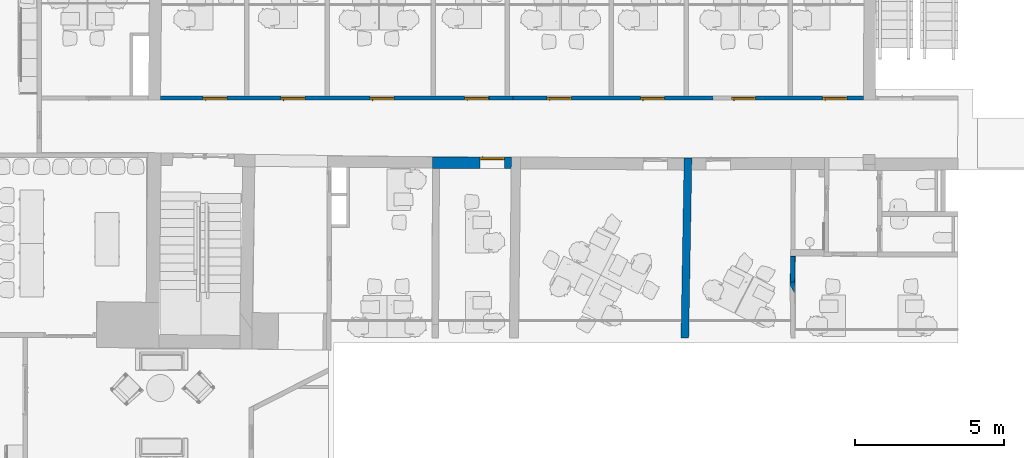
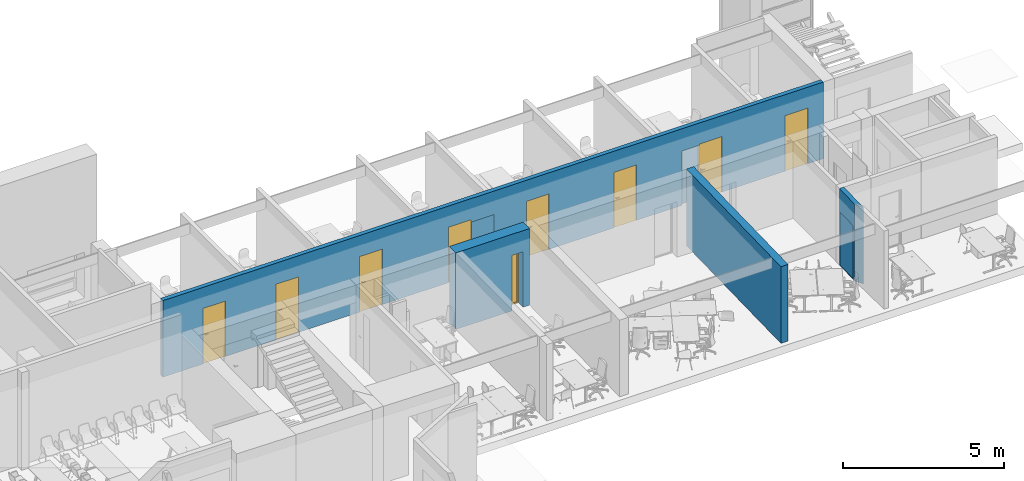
# One storey, part 4 of 19: 9 doors, 6 walls, 12 openings.
"""IFC2X3 building model written with IfcOpenShell, lengths in millimetres."""

import ifcopenshell
import ifcopenshell.guid

model = None  # the IFC model being written
_history = None  # IfcOwnerHistory: only IFC2X3 demands one
_inside = {}  # id of a spatial element -> (the spatial element, [elements in it])
_under = {}  # id of a project, library or spatial element -> (it, [spatial elements below it])
_declared = {}  # id of a project -> (the project, [libraries it declares])
_typed = {}  # id of a type object -> (the type object, [elements of that type])
_made_of = {}  # id of a material, layer set ... -> (it, [elements and type objects made of it])


def new_model(schema):
    """Start an empty IFC model of exactly this schema.

    Asked for "IFC4X3", IfcOpenShell would pick the latest addendum, in which some entities
    have other attributes; the version numbers below select the first issue.
    IFC2X3 requires an IfcOwnerHistory on every rooted entity: one is made here for all.
    """
    global model, _history
    if schema == "IFC4X3":
        model = ifcopenshell.file(schema_version=(4, 3, 0, 0))
    else:
        model = ifcopenshell.file(schema=schema)
    _inside.clear()
    _under.clear()
    _declared.clear()
    _typed.clear()
    _made_of.clear()
    _history = None
    if model.schema == "IFC2X3":
        org = make("IfcOrganization", Name="unknown")
        user = make(
            "IfcPersonAndOrganization",
            ThePerson=make("IfcPerson", FamilyName="unknown"),
            TheOrganization=org,
        )
        app = make(
            "IfcApplication",
            ApplicationDeveloper=org,
            Version="unknown",
            ApplicationFullName="unknown",
            ApplicationIdentifier="unknown",
        )
        _history = make(
            "IfcOwnerHistory",
            OwningUser=user,
            OwningApplication=app,
            ChangeAction="ADDED",
            CreationDate=0,
        )
    return model


def make(cls, **values):
    """One entity of the class cls with the attributes given. An attribute that is None is left unset."""
    return model.create_entity(
        cls, **{name: value for name, value in values.items() if value is not None}
    )


def entity(cls, *values):
    """Any entity or typed value of the class cls, its attributes in the order of the schema. None: left unset."""
    e = model.create_entity(cls)
    for i, value in enumerate(values):
        if value is not None:
            e[i] = value
    return e


def rooted(cls, **values):
    """An entity with a GlobalId (a new one), such as an element, a storey or a relation."""
    return make(cls, GlobalId=ifcopenshell.guid.new(), OwnerHistory=_history, **values)


def si_unit(unit_type, name, prefix=None):
    """IfcSIUnit, for example si_unit("LENGTHUNIT", "METRE", prefix="MILLI")."""
    return make("IfcSIUnit", UnitType=unit_type, Prefix=prefix, Name=name)


def converted_unit(unit_type, name, factor, base, dimensions=None, offset=None):
    """IfcConversionBasedUnit, such as the inch: factor (a typed value) times the base unit."""
    return make(
        "IfcConversionBasedUnit"
        if offset is None
        else "IfcConversionBasedUnitWithOffset",
        ConversionOffset=offset,
        Dimensions=None
        if dimensions is None
        else entity("IfcDimensionalExponents", *dimensions),
        UnitType=unit_type,
        Name=name,
        ConversionFactor=make(
            "IfcMeasureWithUnit", ValueComponent=factor, UnitComponent=base
        ),
    )


def derived_unit(unit_type, elements):
    """IfcDerivedUnit: a product of units, each with its exponent."""
    return make(
        "IfcDerivedUnit",
        Elements=[
            make("IfcDerivedUnitElement", Unit=unit, Exponent=power)
            for unit, power in elements
        ],
        UnitType=unit_type,
    )


def assignment(units):
    """IfcUnitAssignment: the units of a project."""
    return None if units is None else make("IfcUnitAssignment", Units=units)


def point(xyz):
    """IfcCartesianPoint."""
    return None if xyz is None else make("IfcCartesianPoint", Coordinates=xyz)


def direction(xyz):
    """IfcDirection."""
    return None if xyz is None else make("IfcDirection", DirectionRatios=xyz)


def frame(location, z_axis=None, x_axis=None):
    """IfcAxis2Placement3D, a coordinate frame: its origin and axes. An axis left out is left unset."""
    return make(
        "IfcAxis2Placement3D",
        Location=point(location),
        Axis=direction(z_axis),
        RefDirection=direction(x_axis),
    )


def frame_2d(location, x_axis=None):
    """IfcAxis2Placement2D, a coordinate frame in the plane: its origin and x axis."""
    return make(
        "IfcAxis2Placement2D", Location=point(location), RefDirection=direction(x_axis)
    )


def origin():
    """The frame at (0, 0, 0) with its axes left unset."""
    return frame((0.0, 0.0, 0.0))


def place(relative_to, where):
    """IfcLocalPlacement: puts the frame where relative to a parent placement (None: the world)."""
    return make(
        "IfcLocalPlacement", PlacementRelTo=relative_to, RelativePlacement=where
    )


def context(
    kind, dimensions, precision=None, world=None, true_north=None, identifier=None
):
    """IfcGeometricRepresentationContext, for example the 3D "Model" context."""
    return make(
        "IfcGeometricRepresentationContext",
        ContextIdentifier=identifier,
        ContextType=kind,
        CoordinateSpaceDimension=dimensions,
        Precision=precision,
        WorldCoordinateSystem=world,
        TrueNorth=true_north,
    )


def subcontext(parent, identifier, kind, view, scale=None):
    """IfcGeometricRepresentationSubContext, for example "Body" below "Model"."""
    return make(
        "IfcGeometricRepresentationSubContext",
        ContextIdentifier=identifier,
        ContextType=kind,
        ParentContext=parent,
        TargetScale=scale,
        TargetView=view,
    )


def project(units=None, contexts=None):
    """IfcProject with its units and contexts."""
    return rooted(
        "IfcProject",
        Name="project",
        RepresentationContexts=contexts,
        UnitsInContext=assignment(units),
    )


def spatial(cls, under=None, at=None, **own):
    """A site, building, storey or space (cls), placed at a placement, below another one or the project."""
    s = rooted(cls, ObjectPlacement=at, **own)
    if under is not None:
        _under.setdefault(under.id(), (under, []))[1].append(s)
    return s


def polyline(points):
    """IfcPolyline through the points."""
    return make("IfcPolyline", Points=[point(p) for p in points])


def profile(cls, at=None, kind="AREA", **sizes):
    """A parametric profile (cls). Its sizes go by their IFC names, for example OverallWidth=200.0."""
    return make(cls, ProfileType=kind, Position=at, **sizes)


def rectangle(**sizes):
    """IfcRectangleProfileDef."""
    return profile("IfcRectangleProfileDef", **sizes)


def outline(outer, holes=None, kind="AREA"):
    """IfcArbitraryClosedProfileDef: a profile drawn as a closed curve; with holes, ...WithVoids."""
    if holes is None:
        return make("IfcArbitraryClosedProfileDef", ProfileType=kind, OuterCurve=outer)
    return make(
        "IfcArbitraryProfileDefWithVoids",
        ProfileType=kind,
        OuterCurve=outer,
        InnerCurves=holes,
    )


def extrude(swept, where, along, depth):
    """IfcExtrudedAreaSolid: the profile swept, set in the frame where, extruded along a direction by depth."""
    return make(
        "IfcExtrudedAreaSolid",
        SweptArea=swept,
        Position=where,
        ExtrudedDirection=direction(along),
        Depth=depth,
    )


def clip(a, b, op="DIFFERENCE"):
    """IfcBooleanClippingResult: the solid a cut by the half space b."""
    return make(
        "IfcBooleanClippingResult", Operator=op, FirstOperand=a, SecondOperand=b
    )


def bounded_halfspace(plane, agree, where, boundary):
    """IfcPolygonalBoundedHalfSpace: a half space limited to a polygon's prism."""
    return make(
        "IfcPolygonalBoundedHalfSpace",
        BaseSurface=make("IfcPlane", Position=plane),
        AgreementFlag=agree,
        Position=where,
        PolygonalBoundary=boundary,
    )


def faces_of(points, faces, orient=None, outer=None):
    """IfcFace entities. A face is a list of loops; a loop is a list of indices into points, from 0.

    orient and outer hold one flag for each loop. By default every Orientation is true, the
    first loop of a face is its IfcFaceOuterBound and the others are IfcFaceBound.
    """
    made = []
    for i, loops in enumerate(faces):
        bounds = []
        for j, loop in enumerate(loops):
            is_outer = j == 0 if outer is None else outer[i][j]
            bounds.append(
                make(
                    "IfcFaceOuterBound" if is_outer else "IfcFaceBound",
                    Bound=make("IfcPolyLoop", Polygon=[points[k] for k in loop]),
                    Orientation=True if orient is None else orient[i][j],
                )
            )
        made.append(make("IfcFace", Bounds=bounds))
    return made


def faceted_brep(points, faces, orient=None, outer=None, voids=None):
    """IfcFacetedBrep: a solid bounded by flat faces; with voids (closed shells), ...WithVoids."""
    shared = [point(p) for p in points]
    hull = make("IfcClosedShell", CfsFaces=faces_of(shared, faces, orient, outer))
    if voids is None:
        return make("IfcFacetedBrep", Outer=hull)
    return make(
        "IfcFacetedBrepWithVoids",
        Outer=hull,
        Voids=[
            make(cls, CfsFaces=faces_of(shared, fs, o, b)) for cls, fs, o, b in voids
        ],
    )


def shape(context_of_items, identifier, shape_type, items):
    """IfcShapeRepresentation: the items that make up one representation, for example the "Body"."""
    return make(
        "IfcShapeRepresentation",
        ContextOfItems=context_of_items,
        RepresentationIdentifier=identifier,
        RepresentationType=shape_type,
        Items=items,
    )


def source(mapping_origin, context_of_items, identifier, shape_type, items):
    """IfcRepresentationMap: a shape defined once, which mapped items show again and again."""
    return make(
        "IfcRepresentationMap",
        MappingOrigin=mapping_origin,
        MappedRepresentation=shape(context_of_items, identifier, shape_type, items),
    )


def transform(
    local_origin,
    x_axis=None,
    y_axis=None,
    z_axis=None,
    scale=None,
    scale2=None,
    scale3=None,
    uniform=True,
):
    """IfcCartesianTransformationOperator3D, or its non-uniform kind. x_axis, y_axis, z_axis: its Axis1, 2, 3."""
    if uniform:
        return make(
            "IfcCartesianTransformationOperator3D",
            Axis1=direction(x_axis),
            Axis2=direction(y_axis),
            LocalOrigin=point(local_origin),
            Scale=scale,
            Axis3=direction(z_axis),
        )
    return make(
        "IfcCartesianTransformationOperator3DnonUniform",
        Axis1=direction(x_axis),
        Axis2=direction(y_axis),
        LocalOrigin=point(local_origin),
        Scale=scale,
        Axis3=direction(z_axis),
        Scale2=scale2,
        Scale3=scale3,
    )


def mapped(mapping_source, mapping_target):
    """IfcMappedItem: shows the shape of a source again, moved by a transform."""
    return make(
        "IfcMappedItem", MappingSource=mapping_source, MappingTarget=mapping_target
    )


def material(Name=None, Category=None):
    """IfcMaterial."""
    return make("IfcMaterial", Name=Name, Category=Category)


def material_list(materials):
    """IfcMaterialList."""
    return make("IfcMaterialList", Materials=materials)


def layer(
    of_material, thickness, ventilated=None, Name=None, Category=None, Priority=None
):
    """IfcMaterialLayer: one layer of a wall or slab, of a material (None: an air gap)."""
    return make(
        "IfcMaterialLayer",
        Material=of_material,
        LayerThickness=thickness,
        IsVentilated=ventilated,
        Name=Name,
        Category=Category,
        Priority=Priority,
    )


def layer_set(layers, Name=None):
    """IfcMaterialLayerSet."""
    return make("IfcMaterialLayerSet", MaterialLayers=layers, LayerSetName=Name)


def layer_usage(for_layer_set, set_direction, sense, offset, extent=None):
    """IfcMaterialLayerSetUsage: how a layer set lies in its element."""
    return make(
        "IfcMaterialLayerSetUsage",
        ForLayerSet=for_layer_set,
        LayerSetDirection=set_direction,
        DirectionSense=sense,
        OffsetFromReferenceLine=offset,
        ReferenceExtent=extent,
    )


def made_of(thing, what):
    """Note that an element or type object is made of a material, layer set ...; save() writes the relation."""
    if what is not None:
        _made_of.setdefault(what.id(), (what, []))[1].append(thing)
    return thing


def type_object(cls, material=None, **own):
    """A type object (cls), such as IfcWallType, which elements share."""
    return made_of(rooted(cls, **own), material)


def type_shapes(of_type, sources):
    """Give a type object the sources (RepresentationMaps) that its elements show as mapped items."""
    of_type.RepresentationMaps = sources


def element(
    cls,
    number,
    at=None,
    inside=None,
    cuts=None,
    type_object=None,
    material=None,
    context=None,
    identifier="Body",
    shape_type=None,
    held_by="IfcProductDefinitionShape",
    body=None,
    shapes=None,
    **own,
):
    """One element of the class cls, such as IfcWall. Its Tag is "e" and its number.

    at: its placement. inside: the storey or other place that contains it. cuts: it is an
    opening in that element (IfcRelVoidsElement). A single representation is given by context,
    identifier, shape_type and body (its items); several are given by shapes. held_by: the class
    of the entity that holds the representations. save() writes the other relations.
    """
    e = rooted(cls, Tag="e%d" % number, ObjectPlacement=at, **own)
    if body is not None:
        shapes = [shape(context, identifier, shape_type, body)]
    if shapes is not None:
        e.Representation = make(held_by, Representations=shapes)
    if inside is not None:
        _inside.setdefault(inside.id(), (inside, []))[1].append(e)
    if cuts is not None:
        rooted(
            "IfcRelVoidsElement", RelatingBuildingElement=cuts, RelatedOpeningElement=e
        )
    if type_object is not None:
        _typed.setdefault(type_object.id(), (type_object, []))[1].append(e)
    return made_of(e, material)


def fill(opening, filler):
    """IfcRelFillsElement: the door or window that sits in an opening."""
    return rooted(
        "IfcRelFillsElement",
        RelatingOpeningElement=opening,
        RelatedBuildingElement=filler,
    )


def aggregate(whole, parts):
    """IfcRelAggregates: a whole, such as a stair, and the parts it consists of."""
    return rooted("IfcRelAggregates", RelatingObject=whole, RelatedObjects=parts)


def save(model, path):
    """Write the relations noted so far, then the file.

    IfcRelAggregates (storeys below a building ...), IfcRelContainedInSpatialStructure (elements
    in a storey), IfcRelDefinesByType, IfcRelAssociatesMaterial and IfcRelDeclares: one each for
    every whole, place, type object, material and project.
    """
    for whole, parts in _under.values():
        aggregate(whole, parts)
    for where, things in _inside.values():
        rooted(
            "IfcRelContainedInSpatialStructure",
            RelatedElements=things,
            RelatingStructure=where,
        )
    for kind, things in _typed.values():
        rooted("IfcRelDefinesByType", RelatedObjects=things, RelatingType=kind)
    for what, things in _made_of.values():
        rooted("IfcRelAssociatesMaterial", RelatedObjects=things, RelatingMaterial=what)
    for by, libraries in _declared.values():
        rooted("IfcRelDeclares", RelatingContext=by, RelatedDefinitions=libraries)
    model.write(path)


model = new_model("IFC2X3")

# Units and contexts
model_context = context("Model", 3, precision=0.01, world=origin(), true_north=direction((6.12303176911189e-17, 1.0)))
context_of_model = context(None, 3, precision=0.01, world=origin(), true_north=direction((6.12303176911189e-17, 1.0)))
body_context = subcontext(model_context, "Body", "Model", "MODEL_VIEW")
ifc_project = project(units=[si_unit("LENGTHUNIT", "METRE", prefix="MILLI"), si_unit("AREAUNIT", "SQUARE_METRE"), si_unit("VOLUMEUNIT", "CUBIC_METRE"), converted_unit("PLANEANGLEUNIT", "DEGREE", entity("IfcRatioMeasure", 0.0174532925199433), si_unit("PLANEANGLEUNIT", "RADIAN"), dimensions=[0, 0, 0, 0, 0, 0, 0]), si_unit("MASSUNIT", "GRAM", prefix="KILO"), derived_unit("MASSDENSITYUNIT", [(si_unit("MASSUNIT", "GRAM", prefix="KILO"), 1), (si_unit("LENGTHUNIT", "METRE"), -3)]), si_unit("TIMEUNIT", "SECOND"), si_unit("FREQUENCYUNIT", "HERTZ"), si_unit("THERMODYNAMICTEMPERATUREUNIT", "DEGREE_CELSIUS"), derived_unit("THERMALTRANSMITTANCEUNIT", [(si_unit("MASSUNIT", "GRAM", prefix="KILO"), 1), (si_unit("THERMODYNAMICTEMPERATUREUNIT", "KELVIN"), -1), (si_unit("TIMEUNIT", "SECOND"), -3)]), derived_unit("VOLUMETRICFLOWRATEUNIT", [(si_unit("LENGTHUNIT", "METRE"), 3), (si_unit("TIMEUNIT", "SECOND"), -1)]), si_unit("ELECTRICCURRENTUNIT", "AMPERE"), si_unit("ELECTRICVOLTAGEUNIT", "VOLT"), si_unit("POWERUNIT", "WATT"), si_unit("FORCEUNIT", "NEWTON", prefix="KILO"), si_unit("ILLUMINANCEUNIT", "LUX"), si_unit("LUMINOUSFLUXUNIT", "LUMEN"), si_unit("LUMINOUSINTENSITYUNIT", "CANDELA"), derived_unit("USERDEFINED", [(si_unit("MASSUNIT", "GRAM", prefix="KILO"), -1), (si_unit("LENGTHUNIT", "METRE"), -2), (si_unit("TIMEUNIT", "SECOND"), 3), (si_unit("LUMINOUSFLUXUNIT", "LUMEN"), 1)]), derived_unit("LINEARVELOCITYUNIT", [(si_unit("LENGTHUNIT", "METRE"), 1), (si_unit("TIMEUNIT", "SECOND"), -1)]), si_unit("PRESSUREUNIT", "PASCAL"), derived_unit("USERDEFINED", [(si_unit("LENGTHUNIT", "METRE"), -2), (si_unit("MASSUNIT", "GRAM", prefix="KILO"), 1), (si_unit("TIMEUNIT", "SECOND"), -2)])], contexts=[model_context, context_of_model])

# Site, building, storey
site_placement = place(None, frame((121442.264707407, 135347.995453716, -1800.0)))
site = spatial("IfcSite", under=ifc_project, at=site_placement, Name="Surface", CompositionType="ELEMENT")
building_placement = place(site_placement, origin())
building = spatial("IfcBuilding", under=site, at=building_placement, CompositionType="ELEMENT")
storey_placement = place(building_placement, frame((0.0, 0.0, 5125.0)))
storey = spatial("IfcBuildingStorey", under=building, at=storey_placement, Name="2 korrus", CompositionType="ELEMENT", Elevation=5125.00000000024)

# Wall, opening, door
ifc_material_1 = material(Name="__Betoonelement")
ifc_layer_1 = layer(ifc_material_1, 400.0)
ifc_layer_set_1 = layer_set([ifc_layer_1], Name="Basic Wall:40_Betoon")
ifc_layer_usage_1 = layer_usage(ifc_layer_set_1, "AXIS2", "POSITIVE", -200.0)
wall_type_1 = type_object("IfcWallType", Name="Basic Wall:40_Betoon", PredefinedType="STANDARD", material=ifc_layer_set_1)
wall_1_placement = place(storey_placement, frame((-97539.7460747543, -121252.508375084, 0.0), z_axis=(0.0, 0.0, 1.0), x_axis=(-0.999999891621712, 0.000465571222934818, 0.0)))
wall_1 = element("IfcWallStandardCase", 1, at=wall_1_placement, inside=storey, type_object=wall_type_1, material=ifc_layer_usage_1, Name="Basic Wall:40_Betoon", ObjectType="Basic Wall:40_Betoon", context=body_context, shape_type="Clipping", body=[
    clip(extrude(outline(polyline([(0.0, -200.0), (2645.08367377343, -200.0), (2647.01819606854, 200.0), (4.23816373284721, 200.0), (0.0, -200.0)])), origin(), (0.0, 0.0, 1.0), 2897.0), bounded_halfspace(frame((0.0, -200.0, 2897.0), z_axis=(0.0, 0.0, -1.0), x_axis=(-0.000465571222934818, 0.999999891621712, 0.0)), True, frame((0.0, -200.0, 2897.0)), polyline([(0.0, 0.0), (2645.08367377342, 0.0), (2647.01819606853, 400.0), (4.23816373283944, 400.0), (0.0, 0.0)]))),
])
opening_1_placement = place(wall_1_placement, frame((1047.20861682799, 199.811443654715, 0.0)))
opening_1 = element("IfcOpeningElement", 2, at=opening_1_placement, cuts=wall_1, Name="sma_D01:810 x 2110_SU-01 Siseuks:1", ObjectType="Opening", context=body_context, shape_type="SweptSolid", body=[
    extrude(rectangle(XDim=2099.99999999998, YDim=810.0, at=frame_2d((1049.99999999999, 405.0), x_axis=(1.0, 0.0))), frame((0.0, 0.0, 0.0), z_axis=(-0.000465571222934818, -0.999999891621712, 0.0), x_axis=(0.0, 0.0, 1.0)), (0.0, 0.0, 1.0), 400.0),
])
ifc_material_2 = material(Name="Metal - Aluminium")
ifc_material_3 = material(Name="Door - Panel_valge")
ifc_material_list_1 = material_list([ifc_material_2, ifc_material_3])
ifc_material_list_2 = material_list([ifc_material_2, ifc_material_3])
door_style_1 = type_object("IfcDoorStyle", Name="810 x 2110_SU-01 Siseuks", ConstructionType="NOTDEFINED", OperationType="SINGLE_SWING_RIGHT", ParameterTakesPrecedence=False, Sizeable=False, material=ifc_material_list_2)
shared_shape_1 = source(origin(), body_context, "Body", "Brep", [
    faceted_brep([(100.0, 290.0, 1112.5), (100.0, 328.0, 1112.5), (75.0, 328.0, 1112.5), (75.0, 285.0, 1112.5), (195.0, 285.0, 1112.5), (195.0, 290.0, 1112.5), (100.0, 290.0, 1087.5), (195.0, 290.0, 1087.5), (195.0, 285.0, 1087.5), (75.0, 285.0, 1087.5), (75.0, 328.0, 1087.5), (100.0, 328.0, 1087.5)], [[[0, 1, 2, 3, 4, 5]], [[6, 7, 8, 9, 10, 11]], [[1, 0, 6, 11]], [[2, 1, 11, 10]], [[3, 2, 10, 9]], [[4, 3, 9, 8]], [[5, 4, 8, 7]], [[0, 5, 7, 6]]]),
    faceted_brep([(112.499999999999, 328.0, 1137.5), (112.499999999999, 330.0, 1137.5), (62.4999999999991, 330.0, 1137.5), (62.4999999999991, 328.0, 1137.5), (112.499999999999, 328.0, 1017.5), (62.4999999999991, 328.0, 1017.5), (62.4999999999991, 330.0, 1017.5), (112.499999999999, 330.0, 1017.5)], [[[0, 1, 2, 3]], [[4, 5, 6, 7]], [[1, 0, 4, 7]], [[2, 1, 7, 6]], [[3, 2, 6, 5]], [[0, 3, 5, 4]]]),
    faceted_brep([(100.0, 420.0, 1112.5), (195.0, 420.0, 1112.5), (195.0, 425.0, 1112.5), (75.0, 425.0, 1112.5), (75.0, 382.0, 1112.5), (100.0, 382.0, 1112.5), (100.0, 420.0, 1087.5), (100.0, 382.0, 1087.5), (75.0, 382.0, 1087.5), (75.0, 425.0, 1087.5), (195.0, 425.0, 1087.5), (195.0, 420.0, 1087.5)], [[[0, 1, 2, 3, 4, 5]], [[6, 7, 8, 9, 10, 11]], [[5, 7, 6, 0]], [[4, 8, 7, 5]], [[3, 9, 8, 4]], [[2, 10, 9, 3]], [[1, 11, 10, 2]], [[0, 6, 11, 1]]]),
    faceted_brep([(112.499999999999, 382.0, 1137.5), (62.4999999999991, 382.0, 1137.5), (62.4999999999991, 380.0, 1137.5), (112.499999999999, 380.0, 1137.5), (112.499999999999, 382.0, 1017.5), (112.499999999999, 380.0, 1017.5), (62.4999999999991, 380.0, 1017.5), (62.4999999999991, 382.0, 1017.5)], [[[0, 1, 2, 3]], [[4, 5, 6, 7]], [[3, 5, 4, 0]], [[2, 6, 5, 3]], [[1, 7, 6, 2]], [[0, 4, 7, 1]]]),
    faceted_brep([(810.0, 290.0, 0.0), (770.0, 290.0, 0.0), (770.0, 330.0, 0.0), (785.0, 330.0, 0.0), (785.0, 380.0, 0.0), (810.0, 380.0, 0.0), (810.0, 290.0, 2100.0), (0.0, 290.0, 2100.0), (0.0, 290.0, 0.0), (40.0, 290.0, 0.0), (40.0, 290.0, 2060.0), (770.0, 290.0, 2060.0), (770.0, 330.0, 2060.0), (40.0, 330.0, 2060.0), (40.0, 330.0, 0.0), (25.0, 330.0, 0.0), (25.0, 330.0, 2075.0), (785.0, 330.0, 2075.0), (785.0, 380.0, 2075.0), (25.0, 380.0, 2075.0), (25.0, 380.0, 0.0), (0.0, 380.0, 0.0), (0.0, 380.0, 2100.0), (810.0, 380.0, 2100.0)], [[[0, 1, 2, 3, 4, 5]], [[1, 0, 6, 7, 8, 9, 10, 11]], [[2, 1, 11, 12]], [[3, 2, 12, 13, 14, 15, 16, 17]], [[4, 3, 17, 18]], [[5, 4, 18, 19, 20, 21, 22, 23]], [[0, 5, 23, 6]], [[7, 22, 21, 8]], [[8, 21, 20, 15, 14, 9]], [[13, 10, 9, 14]], [[19, 16, 15, 20]], [[12, 11, 10, 13]], [[18, 17, 16, 19]], [[6, 23, 22, 7]]]),
    faceted_brep([(25.0, 330.0, 2075.0), (25.0, 330.0, 20.0), (785.0, 330.0, 20.0), (785.0, 330.0, 2075.0), (25.0, 380.0, 2075.0), (785.0, 380.0, 2075.0), (785.0, 380.0, 20.0), (25.0, 380.0, 20.0)], [[[0, 1, 2, 3]], [[4, 5, 6, 7]], [[1, 0, 4, 7]], [[2, 1, 7, 6]], [[3, 2, 6, 5]], [[0, 3, 5, 4]]]),
    faceted_brep([(770.0, 290.0, 30.0), (770.0, 290.0, 0.0), (770.0, 330.0, 0.0), (770.0, 330.0, 20.0), (770.0, 330.0, 30.0), (40.0, 290.0, 30.0), (40.0, 330.0, 30.0), (40.0, 330.0, 20.0), (40.0, 330.0, 0.0), (40.0, 290.0, 0.0), (25.0, 330.0, 0.0), (25.0, 380.0, 0.0), (785.0, 380.0, 0.0), (785.0, 330.0, 0.0), (785.0, 380.0, 20.0), (785.0, 330.0, 20.0), (25.0, 380.0, 20.0), (25.0, 330.0, 20.0)], [[[0, 1, 2, 3, 4]], [[5, 6, 7, 8, 9]], [[1, 0, 5, 9]], [[2, 1, 9, 8, 10, 11, 12, 13]], [[6, 4, 3, 7]], [[0, 4, 6, 5]], [[14, 15, 13, 12]], [[16, 11, 10, 17]], [[15, 14, 16, 17, 7, 3]], [[13, 15, 3, 2]], [[14, 12, 11, 16]], [[17, 10, 8, 7]]]),
])
type_shapes(door_style_1, [shared_shape_1])
door_1_placement = place(opening_1_placement, frame((0.0, -0.298972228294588, 0.0), z_axis=(0.0, 0.0, 1.0), x_axis=(-1.0, 0.0, 0.0)))
door_1 = element("IfcDoor", 3, at=door_1_placement, inside=storey, type_object=door_style_1, material=ifc_material_list_1, Name="sma_D01:810 x 2110_SU-01 Siseuks", ObjectType="810 x 2110_SU-01 Siseuks", OverallHeight=2099.99999999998, OverallWidth=809.999999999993, context=body_context, shape_type="MappedRepresentation", body=[
    mapped(shared_shape_1, transform((0.0, 0.0, 0.0), scale=1.0)),
])
fill(opening_1, door_1)

# Wall, opening
ifc_layer_2 = layer(ifc_material_1, 160.0)
ifc_layer_set_2 = layer_set([ifc_layer_2], Name="Basic Wall:16_Betoon 2")
ifc_layer_usage_2 = layer_usage(ifc_layer_set_2, "AXIS2", "NEGATIVE", 80.0)
wall_type_2 = type_object("IfcWallType", Name="Basic Wall:16_Betoon 2", PredefinedType="STANDARD", material=ifc_layer_set_2)
wall_2_placement = place(storey_placement, frame((-88099.5157836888, -125633.64318389, 0.0), z_axis=(0.0, 0.0, 1.0), x_axis=(0.0212036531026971, 0.999775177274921, 0.0)))
wall_2 = element("IfcWallStandardCase", 4, at=wall_2_placement, inside=storey, type_object=wall_type_2, material=ifc_layer_usage_2, Name="Basic Wall:16_Betoon 2", ObjectType="Basic Wall:16_Betoon 2", context=body_context, shape_type="Clipping", body=[
    clip(extrude(outline(polyline([(1254.13089211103, -80.0), (1252.86681720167, 80.0), (273.781886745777, 80.0), (0.0, -80.0), (1254.13089211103, -80.0)])), origin(), (0.0, 0.0, 1.0), 2897.0), bounded_halfspace(frame((0.0, -80.0, 2897.0), z_axis=(0.0, 0.0, -1.0), x_axis=(-0.999775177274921, -0.0212036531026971, 0.0)), True, frame((0.0, -80.0, 2897.0)), polyline([(0.0, 0.0), (1254.13089211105, 0.0), (1252.86681720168, 160.0), (273.78188674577, 160.0), (0.0, 0.0)]))),
])
opening_2_placement = place(wall_2_placement, frame((127473.429457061, -85415.816822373, 0.0), z_axis=(0.0, 0.0, 1.0), x_axis=(0.0212036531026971, -0.999775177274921, 0.0)))
element("IfcOpeningElement", 5, at=opening_2_placement, cuts=wall_2, Name="Basic Wall:16_Betoon 2", ObjectType="Opening", context=body_context, shape_type="SweptSolid", body=[
    extrude(rectangle(XDim=2009.99999999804, YDim=850.000000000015, at=frame_2d((8.64019966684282e-12, 0.0), x_axis=(0.0, 1.0))), frame((-86638.851931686, -124863.23529728, 1022.49999999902), z_axis=(-0.999775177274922, 0.0212036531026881, 0.0), x_axis=(-0.0212036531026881, -0.999775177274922, 0.0)), (0.0, 0.0, 1.0), 3047.99999999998),
])

# Wall
ifc_layer_3 = layer(ifc_material_1, 260.0)
ifc_layer_set_3 = layer_set([ifc_layer_3], Name="Basic Wall:26_Betoon 2")
ifc_layer_usage_3 = layer_usage(ifc_layer_set_3, "AXIS2", "NEGATIVE", 130.0)
wall_type_3 = type_object("IfcWallType", Name="Basic Wall:26_Betoon 2", PredefinedType="STANDARD", material=ifc_layer_set_3)
wall_3_placement = place(storey_placement, frame((-91707.9035665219, -127138.249828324, 0.0), z_axis=(0.0, 0.0, 1.0), x_axis=(0.0174524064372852, 0.999847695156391, 0.0)))
element("IfcWallStandardCase", 6, at=wall_3_placement, inside=storey, type_object=wall_type_3, material=ifc_layer_usage_3, Name="Basic Wall:26_Betoon 2", ObjectType="Basic Wall:26_Betoon 2", context=body_context, shape_type="Clipping", body=[
    clip(extrude(outline(polyline([(6046.61372399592, -130.0), (6040.43475380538, 130.0), (6033.34319898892, 130.0), (5633.32861523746, 130.0), (0.0, 130.0), (4.53831688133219, -130.0), (5646.50078232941, -130.0), (6046.61372399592, -130.0)])), origin(), (0.0, 0.0, 1.0), 2897.0), bounded_halfspace(frame((4.53831688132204, -130.0, 2897.0), z_axis=(0.0, 0.0, -1.0), x_axis=(-0.999847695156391, -0.0174524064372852, 0.0)), True, frame((4.53831688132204, -130.0, 2897.0)), polyline([(0.0, 0.0), (5641.96246544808, 0.0), (6042.0754071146, 0.0), (6035.89643692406, 260.0), (6028.80488210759, 260.0), (5628.79029835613, 260.0), (-4.5383168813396, 260.0), (0.0, 0.0)]))),
])

# Wall, openings, doors
ifc_material_4 = material(Name="Plaster")
ifc_layer_4 = layer(ifc_material_4, 10.0)
ifc_material_5 = material(Name="EST. Müüritis. Väikeplokk. Kergkruusplokk")
ifc_layer_5 = layer(ifc_material_5, 130.0)
ifc_layer_6 = layer(ifc_material_4, 10.0)
ifc_layer_set_4 = layer_set([ifc_layer_4, ifc_layer_5, ifc_layer_6], Name="Basic Wall:15_FIBO")
ifc_layer_usage_4 = layer_usage(ifc_layer_set_4, "AXIS2", "NEGATIVE", 75.0)
wall_type_4 = type_object("IfcWallType", Name="Basic Wall:15_FIBO", PredefinedType="STANDARD", material=ifc_layer_set_4)
wall_4_placement = place(storey_placement, frame((-85705.6204254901, -119074.337196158, 0.0), z_axis=(0.0, 0.0, 1.0), x_axis=(-1.0, 0.0, 0.0)))
wall_4 = element("IfcWallStandardCase", 7, at=wall_4_placement, inside=storey, type_object=wall_type_4, material=ifc_layer_usage_4, Name="Basic Wall:15_FIBO", ObjectType="Basic Wall:15_FIBO", context=body_context, shape_type="Clipping", body=[
    clip(extrude(outline(polyline([(0.770324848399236, 75.0), (0.0, -75.0), (2380.1361185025, -75.0), (2530.1361185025, -75.0), (5878.72105379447, -75.0), (6028.72105379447, -75.0), (8399.88408312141, -75.0), (8549.88408312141, -75.0), (11899.9163048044, -75.0), (12049.9163048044, -75.0), (14378.7210537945, -75.0), (14528.7210537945, -75.0), (17939.9163048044, -75.0), (18089.9163048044, -75.0), (20659.9163048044, -75.0), (20809.9163048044, -75.0), (23623.6140071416, -75.0), (23625.1029980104, 75.0), (0.770324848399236, 75.0)])), origin(), (0.0, 0.0, 1.0), 2897.0), bounded_halfspace(frame((0.770324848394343, 75.0, 2897.0), z_axis=(0.0, 0.0, -1.0), x_axis=(0.0, 1.0, 0.0)), True, frame((0.770324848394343, 75.0, 2897.0)), polyline([(0.0, 0.0), (-0.770324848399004, -150.0), (2379.3657936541, -150.0), (2529.3657936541, -150.0), (5877.95072894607, -150.0), (6027.95072894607, -150.0), (8399.11375827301, -150.0), (8549.11375827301, -150.0), (11899.145979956, -150.0), (12049.145979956, -150.0), (14377.9507289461, -150.0), (14527.9507289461, -150.0), (17939.145979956, -150.0), (18089.145979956, -150.0), (20659.145979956, -150.0), (20809.145979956, -150.0), (23622.8436822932, -150.0), (23624.332673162, 0.0), (0.0, 0.0)]))),
])
opening_3_placement = place(wall_4_placement, origin())
element("IfcOpeningElement", 8, at=opening_3_placement, cuts=wall_4, Name="Basic Wall:15_FIBO", ObjectType="Recess", context=body_context, shape_type="SweptSolid", body=[
    extrude(rectangle(XDim=2069.99999999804, YDim=850.000000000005, at=frame_2d((8.64019966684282e-12, -5.6843418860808e-13), x_axis=(0.0, 1.0))), frame((4635.0680632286, 3.25917148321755, 1020.0), z_axis=(-0.00511266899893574, 0.999986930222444, 0.0), x_axis=(-0.999986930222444, -0.00511266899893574, 0.0)), (0.0, 0.0, 1.0), 79.9999999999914),
])
opening_4_placement = place(wall_4_placement, origin())
element("IfcOpeningElement", 9, at=opening_4_placement, cuts=wall_4, Name="Basic Wall:15_FIBO", ObjectType="Recess", context=body_context, shape_type="SweptSolid", body=[
    extrude(rectangle(XDim=2019.99999999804, YDim=800.000000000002, at=frame_2d((-8.78230821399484e-12, 0.0), x_axis=(0.0, 1.0))), frame((12181.1327785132, -88.760738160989, 997.499999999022), z_axis=(0.0110654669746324, 0.999938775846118, 0.0), x_axis=(-0.999938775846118, 0.0110654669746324, 0.0)), (0.0, 0.0, 1.0), 139.999999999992),
])
opening_5_placement = place(wall_4_placement, frame((559.777053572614, -75.0, 0.0)))
opening_5 = element("IfcOpeningElement", 10, at=opening_5_placement, cuts=wall_4, Name="sma_D01:810 x 2110_SU-01 Siseuks:1", ObjectType="Opening", context=body_context, shape_type="SweptSolid", body=[
    extrude(rectangle(XDim=2099.99999999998, YDim=810.0, at=frame_2d((1049.99999999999, 405.000000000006), x_axis=(1.0, 0.0))), frame((0.0, 0.0, 0.0), z_axis=(0.0, 1.0, 0.0), x_axis=(0.0, 0.0, 1.0)), (0.0, 0.0, 1.0), 150.0),
])
opening_6_placement = place(wall_4_placement, frame((6684.98363945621, -75.0, 0.0)))
opening_6 = element("IfcOpeningElement", 11, at=opening_6_placement, cuts=wall_4, Name="sma_D01:810 x 2110_SU-01 Siseuks:1", ObjectType="Opening", context=body_context, shape_type="SweptSolid", body=[
    extrude(rectangle(XDim=2099.99999999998, YDim=810.0, at=frame_2d((1049.99999999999, 405.000000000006), x_axis=(1.0, 0.0))), frame((0.0, 0.0, 0.0), z_axis=(0.0, 1.0, 0.0), x_axis=(0.0, 0.0, 1.0)), (0.0, 0.0, 1.0), 150.0),
])
opening_7_placement = place(wall_4_placement, frame((12598.1561850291, -75.0, 0.0)))
opening_7 = element("IfcOpeningElement", 12, at=opening_7_placement, cuts=wall_4, Name="sma_D01:810 x 2110_SU-01 Siseuks:1", ObjectType="Opening", context=body_context, shape_type="SweptSolid", body=[
    extrude(rectangle(XDim=2099.99999999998, YDim=810.0, at=frame_2d((1049.99999999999, 405.000000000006), x_axis=(1.0, 0.0))), frame((0.0, 0.0, 0.0), z_axis=(0.0, 1.0, 0.0), x_axis=(0.0, 0.0, 1.0)), (0.0, 0.0, 1.0), 150.0),
])
opening_8_placement = place(wall_4_placement, frame((15778.1561850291, -75.0, 0.0)))
opening_8 = element("IfcOpeningElement", 13, at=opening_8_placement, cuts=wall_4, Name="sma_D01:810 x 2110_SU-01 Siseuks:1", ObjectType="Opening", context=body_context, shape_type="SweptSolid", body=[
    extrude(rectangle(XDim=2099.99999999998, YDim=810.0, at=frame_2d((1049.99999999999, 405.000000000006), x_axis=(1.0, 0.0))), frame((0.0, 0.0, 0.0), z_axis=(0.0, 1.0, 0.0), x_axis=(0.0, 0.0, 1.0)), (0.0, 0.0, 1.0), 150.0),
])
opening_9_placement = place(wall_4_placement, frame((18768.156185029, -75.0, 0.0)))
opening_9 = element("IfcOpeningElement", 14, at=opening_9_placement, cuts=wall_4, Name="sma_D01:810 x 2110_SU-01 Siseuks:1", ObjectType="Opening", context=body_context, shape_type="SweptSolid", body=[
    extrude(rectangle(XDim=2099.99999999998, YDim=810.0, at=frame_2d((1049.99999999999, 405.000000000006), x_axis=(1.0, 0.0))), frame((0.0, 0.0, 0.0), z_axis=(0.0, 1.0, 0.0), x_axis=(0.0, 0.0, 1.0)), (0.0, 0.0, 1.0), 150.0),
])
opening_10_placement = place(wall_4_placement, frame((21388.156185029, -75.0, 0.0)))
opening_10 = element("IfcOpeningElement", 15, at=opening_10_placement, cuts=wall_4, Name="sma_D01:810 x 2110_SU-01 Siseuks:1", ObjectType="Opening", context=body_context, shape_type="SweptSolid", body=[
    extrude(rectangle(XDim=2099.99999999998, YDim=810.0, at=frame_2d((1049.99999999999, 405.000000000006), x_axis=(1.0, 0.0))), frame((0.0, 0.0, 0.0), z_axis=(0.0, 1.0, 0.0), x_axis=(0.0, 0.0, 1.0)), (0.0, 0.0, 1.0), 150.0),
])
opening_11_placement = place(wall_4_placement, frame((3630.13611850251, -75.0, 0.0)))
opening_11 = element("IfcOpeningElement", 16, at=opening_11_placement, cuts=wall_4, Name="sma_D01:810 x 2110_SU-01 Siseuks:1", ObjectType="Opening", context=body_context, shape_type="SweptSolid", body=[
    extrude(rectangle(XDim=2099.99999999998, YDim=810.0, at=frame_2d((1049.99999999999, 405.000000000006), x_axis=(1.0, 0.0))), frame((0.0, 0.0, 0.0), z_axis=(0.0, 1.0, 0.0), x_axis=(0.0, 0.0, 1.0)), (0.0, 0.0, 1.0), 150.0),
])
opening_12_placement = place(wall_4_placement, frame((9819.90019396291, -75.0, 0.0)))
opening_12 = element("IfcOpeningElement", 17, at=opening_12_placement, cuts=wall_4, Name="sma_D01:810 x 2110_SU-01 Siseuks:1", ObjectType="Opening", context=body_context, shape_type="SweptSolid", body=[
    extrude(rectangle(XDim=2099.99999999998, YDim=810.0, at=frame_2d((1049.99999999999, 405.000000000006), x_axis=(1.0, 0.0))), frame((0.0, 0.0, 0.0), z_axis=(0.0, 1.0, 0.0), x_axis=(0.0, 0.0, 1.0)), (0.0, 0.0, 1.0), 150.0),
])
ifc_material_list_3 = material_list([ifc_material_2, ifc_material_3])
ifc_material_list_4 = material_list([ifc_material_2, ifc_material_3])
door_style_2 = type_object("IfcDoorStyle", Name="810 x 2110_SU-01 Siseuks", ConstructionType="NOTDEFINED", OperationType="SINGLE_SWING_LEFT", ParameterTakesPrecedence=False, Sizeable=False, material=ifc_material_list_4)
shared_shape_2 = source(origin(), body_context, "Body", "Brep", [
    faceted_brep([(710.0, 40.0, 1112.5), (615.0, 40.0, 1112.5), (615.0, 35.0, 1112.5), (735.0, 35.0, 1112.5), (735.0, 78.0, 1112.5), (710.0, 78.0, 1112.5), (710.0, 40.0, 1087.5), (710.0, 78.0, 1087.5), (735.0, 78.0, 1087.5), (735.0, 35.0, 1087.5), (615.0, 35.0, 1087.5), (615.0, 40.0, 1087.5)], [[[0, 1, 2, 3, 4, 5]], [[6, 7, 8, 9, 10, 11]], [[5, 7, 6, 0]], [[4, 8, 7, 5]], [[3, 9, 8, 4]], [[2, 10, 9, 3]], [[1, 11, 10, 2]], [[0, 6, 11, 1]]]),
    faceted_brep([(697.500000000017, 78.0, 1137.5), (747.500000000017, 78.0, 1137.5), (747.500000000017, 80.0, 1137.5), (697.500000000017, 80.0, 1137.5), (697.500000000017, 78.0, 1017.5), (697.500000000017, 80.0, 1017.5), (747.500000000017, 80.0, 1017.5), (747.500000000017, 78.0, 1017.5)], [[[0, 1, 2, 3]], [[4, 5, 6, 7]], [[3, 5, 4, 0]], [[2, 6, 5, 3]], [[1, 7, 6, 2]], [[0, 4, 7, 1]]]),
    faceted_brep([(710.0, 170.0, 1112.5), (710.0, 132.0, 1112.5), (735.0, 132.0, 1112.5), (735.0, 175.0, 1112.5), (615.0, 175.0, 1112.5), (615.0, 170.0, 1112.5), (710.0, 170.0, 1087.5), (615.0, 170.0, 1087.5), (615.0, 175.0, 1087.5), (735.0, 175.0, 1087.5), (735.0, 132.0, 1087.5), (710.0, 132.0, 1087.5)], [[[0, 1, 2, 3, 4, 5]], [[6, 7, 8, 9, 10, 11]], [[1, 0, 6, 11]], [[2, 1, 11, 10]], [[3, 2, 10, 9]], [[4, 3, 9, 8]], [[5, 4, 8, 7]], [[0, 5, 7, 6]]]),
    faceted_brep([(697.500000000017, 132.0, 1137.5), (697.500000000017, 130.0, 1137.5), (747.500000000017, 130.0, 1137.5), (747.500000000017, 132.0, 1137.5), (697.500000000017, 132.0, 1017.5), (747.500000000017, 132.0, 1017.5), (747.500000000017, 130.0, 1017.5), (697.500000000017, 130.0, 1017.5)], [[[0, 1, 2, 3]], [[4, 5, 6, 7]], [[1, 0, 4, 7]], [[2, 1, 7, 6]], [[3, 2, 6, 5]], [[0, 3, 5, 4]]]),
    faceted_brep([(0.0, 40.0, 0.0), (0.0, 130.0, 0.0), (25.0, 130.0, 0.0), (25.0, 80.0, 0.0), (40.0, 80.0, 0.0), (40.0, 40.0, 0.0), (40.0, 40.0, 2060.0), (770.0, 40.0, 2060.0), (770.0, 40.0, 0.0), (810.0, 40.0, 0.0), (810.0, 40.0, 2100.0), (0.0, 40.0, 2100.0), (40.0, 80.0, 2060.0), (25.0, 80.0, 2075.0), (785.0, 80.0, 2075.0), (785.0, 80.0, 0.0), (770.0, 80.0, 0.0), (770.0, 80.0, 2060.0), (25.0, 130.0, 2075.0), (0.0, 130.0, 2100.0), (810.0, 130.0, 2100.0), (810.0, 130.0, 0.0), (785.0, 130.0, 0.0), (785.0, 130.0, 2075.0)], [[[0, 1, 2, 3, 4, 5]], [[5, 6, 7, 8, 9, 10, 11, 0]], [[4, 12, 6, 5]], [[3, 13, 14, 15, 16, 17, 12, 4]], [[2, 18, 13, 3]], [[1, 19, 20, 21, 22, 23, 18, 2]], [[0, 11, 19, 1]], [[10, 9, 21, 20]], [[9, 8, 16, 15, 22, 21]], [[17, 16, 8, 7]], [[23, 22, 15, 14]], [[12, 17, 7, 6]], [[18, 23, 14, 13]], [[11, 10, 20, 19]]]),
    faceted_brep([(785.0, 80.0, 2075.0), (25.0, 80.0, 2075.0), (25.0, 80.0, 20.0), (785.0, 80.0, 20.0), (785.0, 130.0, 2075.0), (785.0, 130.0, 20.0), (25.0, 130.0, 20.0), (25.0, 130.0, 2075.0)], [[[0, 1, 2, 3]], [[4, 5, 6, 7]], [[3, 5, 4, 0]], [[2, 6, 5, 3]], [[1, 7, 6, 2]], [[0, 4, 7, 1]]]),
    faceted_brep([(40.0, 40.0, 30.0), (40.0, 80.0, 30.0), (40.0, 80.0, 20.0), (40.0, 80.0, 0.0), (40.0, 40.0, 0.0), (770.0, 40.0, 30.0), (770.0, 40.0, 0.0), (770.0, 80.0, 0.0), (770.0, 80.0, 20.0), (770.0, 80.0, 30.0), (25.0, 80.0, 0.0), (25.0, 130.0, 0.0), (785.0, 130.0, 0.0), (785.0, 80.0, 0.0), (25.0, 130.0, 20.0), (25.0, 80.0, 20.0), (785.0, 130.0, 20.0), (785.0, 80.0, 20.0)], [[[0, 1, 2, 3, 4]], [[5, 6, 7, 8, 9]], [[4, 6, 5, 0]], [[3, 10, 11, 12, 13, 7, 6, 4]], [[9, 8, 2, 1]], [[0, 5, 9, 1]], [[14, 11, 10, 15]], [[16, 17, 13, 12]], [[15, 2, 8, 17, 16, 14]], [[10, 3, 2, 15]], [[14, 16, 12, 11]], [[17, 8, 7, 13]]]),
])
type_shapes(door_style_2, [shared_shape_2])
door_2_placement = place(opening_5_placement, origin())
door_2 = element("IfcDoor", 18, at=door_2_placement, inside=storey, type_object=door_style_2, material=ifc_material_list_3, Name="sma_D01:810 x 2110_SU-01 Siseuks", ObjectType="810 x 2110_SU-01 Siseuks", OverallHeight=2099.99999999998, OverallWidth=810.000000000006, context=body_context, shape_type="MappedRepresentation", body=[
    mapped(shared_shape_2, transform((0.0, 0.0, 0.0), scale=1.0)),
])
fill(opening_5, door_2)
ifc_material_list_5 = material_list([ifc_material_2, ifc_material_3])
door_3_placement = place(opening_6_placement, origin())
door_3 = element("IfcDoor", 19, at=door_3_placement, inside=storey, type_object=door_style_2, material=ifc_material_list_5, Name="sma_D01:810 x 2110_SU-01 Siseuks", ObjectType="810 x 2110_SU-01 Siseuks", OverallHeight=2099.99999999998, OverallWidth=810.000000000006, context=body_context, shape_type="MappedRepresentation", body=[
    mapped(shared_shape_2, transform((0.0, 0.0, 0.0), scale=1.0)),
])
fill(opening_6, door_3)
ifc_material_list_6 = material_list([ifc_material_2, ifc_material_3])
door_4_placement = place(opening_7_placement, origin())
door_4 = element("IfcDoor", 20, at=door_4_placement, inside=storey, type_object=door_style_2, material=ifc_material_list_6, Name="sma_D01:810 x 2110_SU-01 Siseuks", ObjectType="810 x 2110_SU-01 Siseuks", OverallHeight=2099.99999999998, OverallWidth=810.000000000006, context=body_context, shape_type="MappedRepresentation", body=[
    mapped(shared_shape_2, transform((0.0, 0.0, 0.0), scale=1.0)),
])
fill(opening_7, door_4)
ifc_material_list_7 = material_list([ifc_material_2, ifc_material_3])
door_5_placement = place(opening_8_placement, origin())
door_5 = element("IfcDoor", 21, at=door_5_placement, inside=storey, type_object=door_style_2, material=ifc_material_list_7, Name="sma_D01:810 x 2110_SU-01 Siseuks", ObjectType="810 x 2110_SU-01 Siseuks", OverallHeight=2099.99999999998, OverallWidth=810.000000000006, context=body_context, shape_type="MappedRepresentation", body=[
    mapped(shared_shape_2, transform((0.0, 0.0, 0.0), scale=1.0)),
])
fill(opening_8, door_5)
ifc_material_list_8 = material_list([ifc_material_2, ifc_material_3])
door_6_placement = place(opening_9_placement, origin())
door_6 = element("IfcDoor", 22, at=door_6_placement, inside=storey, type_object=door_style_2, material=ifc_material_list_8, Name="sma_D01:810 x 2110_SU-01 Siseuks", ObjectType="810 x 2110_SU-01 Siseuks", OverallHeight=2099.99999999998, OverallWidth=810.000000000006, context=body_context, shape_type="MappedRepresentation", body=[
    mapped(shared_shape_2, transform((0.0, 0.0, 0.0), scale=1.0)),
])
fill(opening_9, door_6)
ifc_material_list_9 = material_list([ifc_material_2, ifc_material_3])
door_7_placement = place(opening_10_placement, origin())
door_7 = element("IfcDoor", 23, at=door_7_placement, inside=storey, type_object=door_style_2, material=ifc_material_list_9, Name="sma_D01:810 x 2110_SU-01 Siseuks", ObjectType="810 x 2110_SU-01 Siseuks", OverallHeight=2099.99999999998, OverallWidth=810.000000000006, context=body_context, shape_type="MappedRepresentation", body=[
    mapped(shared_shape_2, transform((0.0, 0.0, 0.0), scale=1.0)),
])
fill(opening_10, door_7)
ifc_material_list_10 = material_list([ifc_material_2, ifc_material_3])
door_8_placement = place(opening_11_placement, origin())
door_8 = element("IfcDoor", 24, at=door_8_placement, inside=storey, type_object=door_style_2, material=ifc_material_list_10, Name="sma_D01:810 x 2110_SU-01 Siseuks", ObjectType="810 x 2110_SU-01 Siseuks", OverallHeight=2099.99999999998, OverallWidth=810.000000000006, context=body_context, shape_type="MappedRepresentation", body=[
    mapped(shared_shape_2, transform((0.0, 0.0, 0.0), scale=1.0)),
])
fill(opening_11, door_8)
ifc_material_list_11 = material_list([ifc_material_2, ifc_material_3])
door_9_placement = place(opening_12_placement, origin())
door_9 = element("IfcDoor", 25, at=door_9_placement, inside=storey, type_object=door_style_2, material=ifc_material_list_11, Name="sma_D01:810 x 2110_SU-01 Siseuks", ObjectType="810 x 2110_SU-01 Siseuks", OverallHeight=2099.99999999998, OverallWidth=810.000000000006, context=body_context, shape_type="MappedRepresentation", body=[
    mapped(shared_shape_2, transform((0.0, 0.0, 0.0), scale=1.0)),
])
fill(opening_12, door_9)

# Walls
ifc_layer_usage_5 = layer_usage(ifc_layer_set_4, "AXIS2", "NEGATIVE", 75.0)
wall_5_placement = place(storey_placement, frame((-88091.5388402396, -125257.521672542, 17.5000000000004), z_axis=(0.0, 0.0, 1.0), x_axis=(0.0212036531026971, 0.999775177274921, 0.0)))
element("IfcWallStandardCase", 26, at=wall_5_placement, inside=storey, type_object=wall_type_4, material=ifc_layer_usage_5, Name="Basic Wall:15_FIBO", ObjectType="Basic Wall:15_FIBO", context=body_context, shape_type="SweptSolid", body=[
    extrude(rectangle(XDim=850.000000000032, YDim=150.000000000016, at=frame_2d((425.000000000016, 4.01456645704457e-12), x_axis=(-1.0, 0.0))), origin(), (0.0, 0.0, 1.0), 2009.99999999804),
])
ifc_layer_usage_6 = layer_usage(ifc_layer_set_4, "AXIS2", "NEGATIVE", 75.0)
wall_6_placement = place(storey_placement, frame((-97486.880991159, -119074.337196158, 0.0), z_axis=(0.0, 0.0, 1.0), x_axis=(-1.0, 0.0, 0.0)))
element("IfcWallStandardCase", 27, at=wall_6_placement, inside=storey, type_object=wall_type_4, material=ifc_layer_usage_6, Name="Basic Wall:15_FIBO", ObjectType="Basic Wall:15_FIBO", context=body_context, shape_type="SweptSolid", body=[
    extrude(rectangle(XDim=800.048982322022, YDim=150.000000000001, at=frame_2d((400.024491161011, 1.24344978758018e-12), x_axis=(-1.0, 0.0))), origin(), (0.0, 0.0, 1.0), 2007.49999999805),
])

save(model, "model.ifc")
